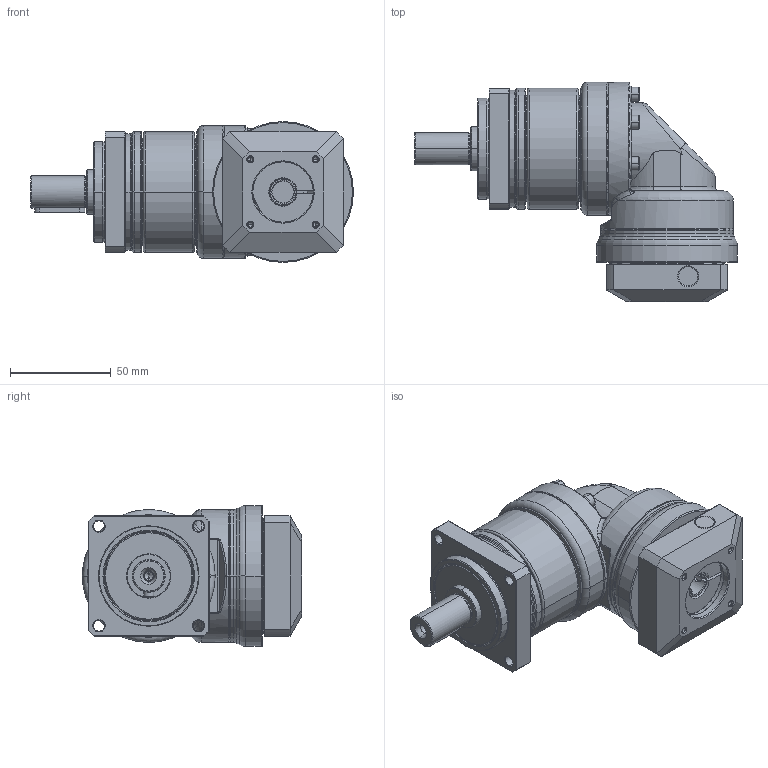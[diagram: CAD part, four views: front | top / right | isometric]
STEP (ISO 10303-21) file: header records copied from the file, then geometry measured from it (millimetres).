
FILE_DESCRIPTION((''),'2;1');
FILE_NAME('PA2R-060_1ST_11-P0411200101_ASM','2016-05-12T',('d01943'),(''),'PRO/ENGINEER BY PARAMETRIC TECHNOLOGY CORPORATION, 2008410','PRO/ENGINEER BY PARAMETRIC TECHNOLOGY CORPORATION, 2008410','');
FILE_SCHEMA(('CONFIG_CONTROL_DESIGN'));
Length unit declared in the file: millimetre
Products named in the file (12): P1327210001; P0250200001; P0350200001; P1349200001; P1017200001; P0713201001; P0503200005; P1350200101; P0411200101; P1702300001; 2111B104020; PA2R-060_1ST_11-P0411200101_ASM
Assembly tree (16 placements, depth 2):
  PA2R-060_1ST_11-P0411200101_ASM
    P1327210001
    P0250200001
    P0350200001
    P1349200001
    P1017200001
    P0713201001
    P0503200005
    P1350200101
    P0411200101
    P1702300001
    2111B104020  x6
Bounding box: 160.5 x 109 x 70 mm (x, y, z)
Volume: 330866.9 mm3; surface area: 107375.7 mm2
Topology: 16 solids, 16 shells, 816 faces, 1790 edges, 1033 vertices
Faces by surface type: cylinder 246, cone 236, plane 202, torus 100, bspline 32
Entity records: 23593 total; most frequent: CARTESIAN_POINT 8978, DIRECTION 3241, ORIENTED_EDGE 2828, EDGE_CURVE 1414, AXIS2_PLACEMENT_3D 1364, VERTEX_POINT 833, EDGE_LOOP 737, CIRCLE 717
